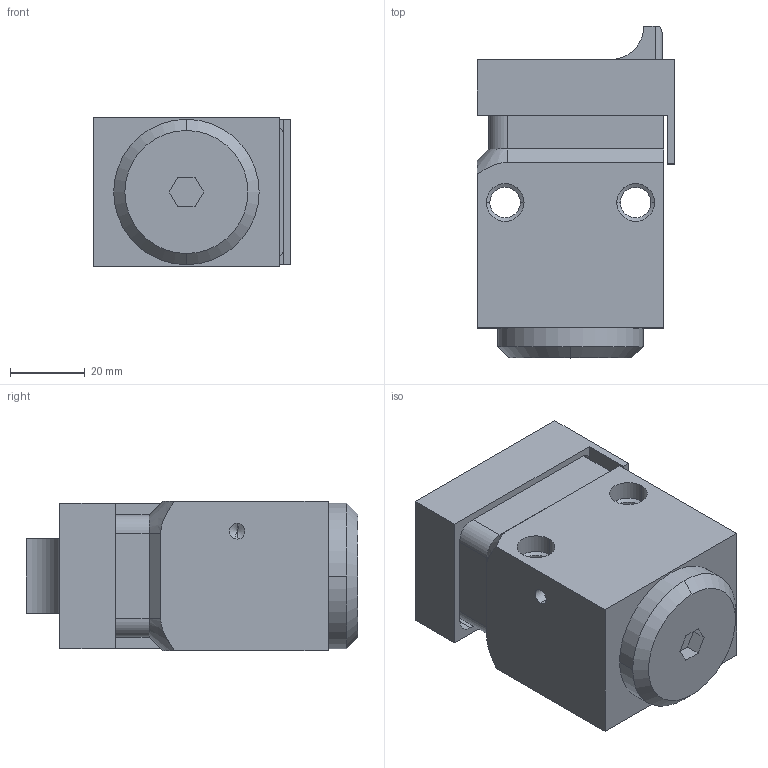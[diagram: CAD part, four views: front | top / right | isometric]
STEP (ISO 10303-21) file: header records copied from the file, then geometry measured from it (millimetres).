
FILE_DESCRIPTION (( 'STEP AP203' ), '1' );
FILE_NAME ('D0120-EW.STEP', '2009-02-09T11:49:37', ( '' ), ( '' ), 'SwSTEP 2.0', 'SolidWorks 2007', '' );
FILE_SCHEMA (( 'CONFIG_CONTROL_DESIGN' ));
Length unit declared in the file: millimetre
Products named in the file (1): D0120-EW
Bounding box: 53 x 89 x 40 mm (x, y, z)
Volume: 131245.4 mm3; surface area: 27907.6 mm2
Topology: 1 solids, 1 shells, 107 faces, 265 edges, 166 vertices
Faces by surface type: plane 52, cylinder 37, cone 18
Entity records: 3252 total; most frequent: CARTESIAN_POINT 597, DIRECTION 549, ORIENTED_EDGE 522, EDGE_CURVE 261, AXIS2_PLACEMENT_3D 188, VECTOR 173, LINE 173, VERTEX_POINT 166
